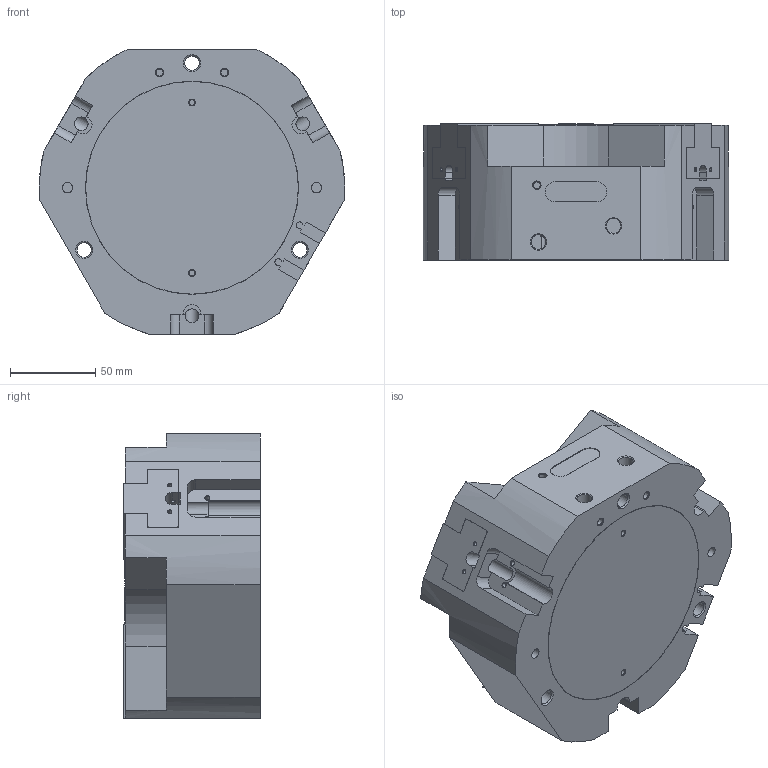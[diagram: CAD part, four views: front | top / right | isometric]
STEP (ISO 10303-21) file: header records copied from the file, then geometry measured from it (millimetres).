
FILE_DESCRIPTION( ( 'STEP AP214' ), '1' );
FILE_NAME( 'C:/Users/ashearer/Desktop/Mindman New CAD/Grippers/MCHJ-160-SD_0_.stp', ' ', ( ' ' ), ( ' ' ), 'PSStep 15.0.47', 'PARTsolutions', ' ' );
FILE_SCHEMA( ( 'AUTOMOTIVE_DESIGN { 1 0 10303 214 1 1 1 1 }' ) );
Length unit declared in the file: millimetre
Products named in the file (4): MCHJ-160-SD(0); _MCHJ-160-SD(dummy_0); _MCHJ-160-SD-body; _MCHJ-160-SD-finger
Assembly tree (5 placements, depth 2):
  MCHJ-160-SD(0)
    _MCHJ-160-SD(dummy_0)
    _MCHJ-160-SD-body
    _MCHJ-160-SD-finger  x3
Bounding box: 178.94 x 80 x 167 mm (x, y, z)
Volume: 1586179.2 mm3; surface area: 177180.4 mm2
Topology: 4 solids, 4 shells, 463 faces, 1175 edges, 764 vertices
Faces by surface type: plane 309, cylinder 111, cone 43
Full cylindrical faces by diameter (mm): 2.013 x12, 2.459 x6, 2.5 x6, 3.242 x2, 3.6 x6, 4.134 x3, 5.917 x9, 6 x2, 8 x3, 8.376 x3, 8.566 x2, 12 x9, 13.5 x3, 124.8 x1, 125 x1
Entity records: 11626 total; most frequent: CARTESIAN_POINT 1598, DIRECTION 1560, ORIENTED_EDGE 1434, EDGE_CURVE 717, AXIS2_PLACEMENT_3D 529, VERTEX_POINT 512, LINE 502, VECTOR 502
